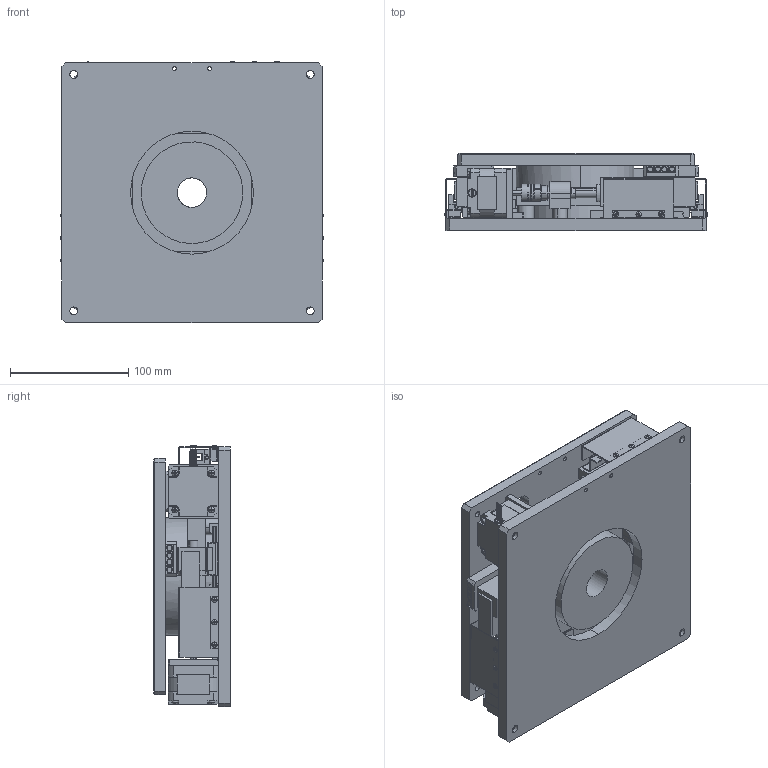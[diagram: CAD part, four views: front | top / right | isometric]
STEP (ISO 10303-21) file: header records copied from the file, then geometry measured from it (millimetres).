
FILE_DESCRIPTION (( 'STEP AP214' ), '1' );
FILE_NAME ('NAF3C-20K01P_3俢恾.STEP', '2020-12-28T23:50:16', ( 'hst163l' ), ( 'Microsoft' ), 'SwSTEP 2.0', 'SolidWorks 2016', '' );
FILE_SCHEMA (( 'AUTOMOTIVE_DESIGN' ));
Length unit declared in the file: millimetre
Products named in the file (1): NAF3C-20K01P_3俢恾
Bounding box: 222.27 x 65 x 221.13 mm (x, y, z)
Volume: 1574310.2 mm3; surface area: 368721.4 mm2
Topology: 24 solids, 24 shells, 3060 faces, 8010 edges, 5146 vertices
Faces by surface type: plane 2018, cylinder 782, cone 136, torus 106, sphere 18
Entity records: 114068 total; most frequent: CARTESIAN_POINT 18336, DIRECTION 16182, ORIENTED_EDGE 15976, EDGE_CURVE 7988, AXIS2_PLACEMENT_3D 5478, LINE 5226, VECTOR 5226, VERTEX_POINT 5146
